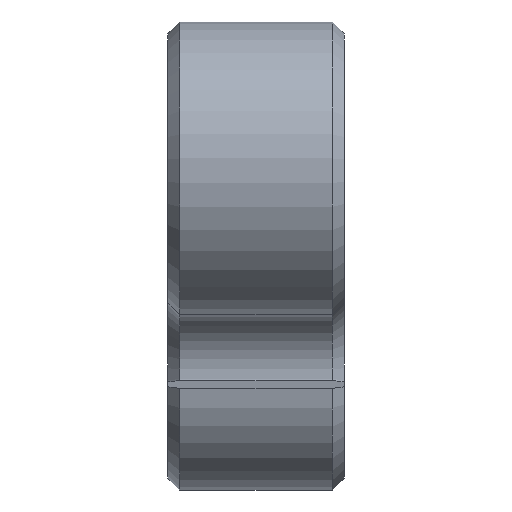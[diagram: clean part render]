
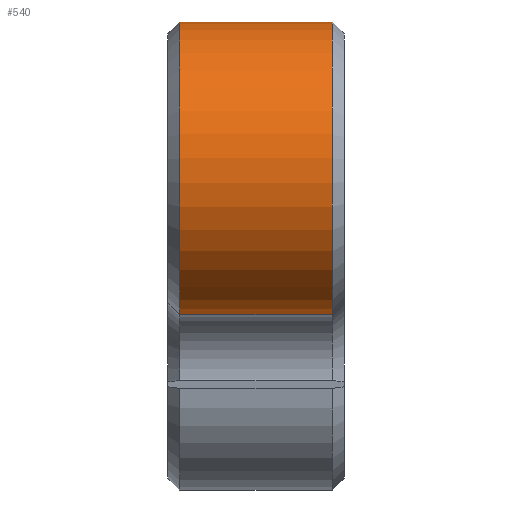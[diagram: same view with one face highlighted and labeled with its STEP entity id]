
A CAD part, front view. The second image highlights one B-rep face of the part: STEP entity #540.
In plain terms, the highlighted cylindrical face has radius 25 mm (diameter 50 mm), a partial arc.
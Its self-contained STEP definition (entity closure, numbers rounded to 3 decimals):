
#16=CYLINDRICAL_SURFACE('',#597,25.);
#40=FACE_OUTER_BOUND('',#74,.T.);
#74=EDGE_LOOP('',(#385,#386,#387,#388));
#104=CIRCLE('',#586,25.);
#110=CIRCLE('',#598,25.);
#143=LINE('',#871,#191);
#145=LINE('',#875,#193);
#191=VECTOR('',#691,10.);
#193=VECTOR('',#695,10.);
#231=VERTEX_POINT('',#834);
#233=VERTEX_POINT('',#840);
#243=VERTEX_POINT('',#870);
#244=VERTEX_POINT('',#874);
#283=EDGE_CURVE('',#231,#233,#104,.T.);
#296=EDGE_CURVE('',#233,#243,#143,.T.);
#298=EDGE_CURVE('',#231,#244,#145,.T.);
#299=EDGE_CURVE('',#243,#244,#110,.T.);
#385=ORIENTED_EDGE('',*,*,#283,.F.);
#386=ORIENTED_EDGE('',*,*,#298,.T.);
#387=ORIENTED_EDGE('',*,*,#299,.F.);
#388=ORIENTED_EDGE('',*,*,#296,.F.);
#540=ADVANCED_FACE('',(#40),#16,.T.);
#586=AXIS2_PLACEMENT_3D('',#844,#662,#663);
#597=AXIS2_PLACEMENT_3D('',#873,#693,#694);
#598=AXIS2_PLACEMENT_3D('',#876,#696,#697);
#662=DIRECTION('center_axis',(-1.,0.,0.));
#663=DIRECTION('ref_axis',(0.,-0.143,-0.99));
#691=DIRECTION('',(1.,0.,0.));
#693=DIRECTION('center_axis',(-1.,0.,0.));
#694=DIRECTION('ref_axis',(0.,-0.143,-0.99));
#695=DIRECTION('',(1.,0.,0.));
#696=DIRECTION('center_axis',(1.,0.,0.));
#697=DIRECTION('ref_axis',(0.,-0.143,-0.99));
#834=CARTESIAN_POINT('',(-13.,-33.571,25.256));
#840=CARTESIAN_POINT('',(-13.,-30.,75.));
#844=CARTESIAN_POINT('Origin',(-13.,-30.,50.));
#870=CARTESIAN_POINT('',(13.,-30.,75.));
#871=CARTESIAN_POINT('',(-15.,-30.,75.));
#873=CARTESIAN_POINT('Origin',(0.,-30.,50.));
#874=CARTESIAN_POINT('',(13.,-33.571,25.256));
#875=CARTESIAN_POINT('',(-15.,-33.571,25.256));
#876=CARTESIAN_POINT('Origin',(13.,-30.,50.));
